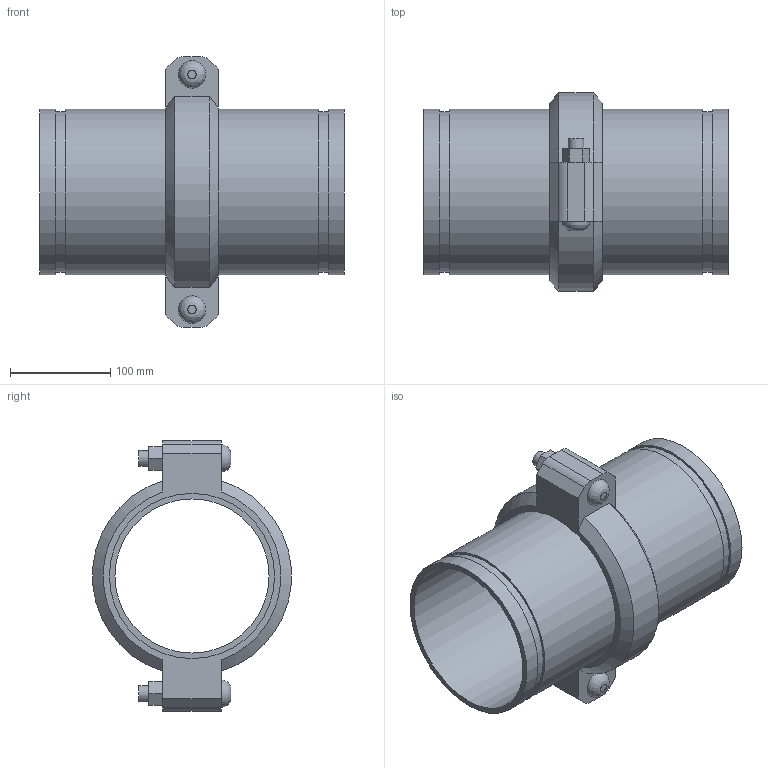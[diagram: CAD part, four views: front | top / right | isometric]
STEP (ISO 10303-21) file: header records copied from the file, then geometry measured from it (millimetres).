
FILE_DESCRIPTION(/* description */ ('VIC EXPANSION JOINT 1 COUPLING COMPRESSED STYLE 155 (OGS)','CAx-IF Rec.Pracs.---Representation and Presentation of Product Manufacturing Information (PMI)---4.0---2014-10-13'),/* implementation_level */ '2;1');
FILE_NAME(/* name */ 'C:\Users\kkamble\AppData\Roaming\Autodesk\ApplicationPlugins\Victaulic.Temp\A74\Victaulic_IPS_Expansion Joint_Compressed_1 Coupling_Style 155 (OGS)_06.0 (165.1) (150).stp',/* time_stamp */ '2021-06-27T00:14:49+02:00',/* author */ ('kkamble'),/* organization */ ('Victaulic'),/* preprocessor_version */ 'ST-DEVELOPER v17.2',/* originating_system */ 'Autodesk Inventor 2019',/* authorisation */ '');
FILE_SCHEMA (('AP242_MANAGED_MODEL_BASED_3D_ENGINEERING_MIM_LF { 1 0 10303 442 1 1 4 }'));
Length unit declared in the file: inch
Products named in the file (3): 155-06.0 (165.1); Nipple-06.0 (165.1); 075-06.0 (165.1)
Assembly tree (3 placements, depth 2):
  155-06.0 (165.1)
    Nipple-06.0 (165.1)  x2
    075-06.0 (165.1)
Bounding box: 304.04 x 198.42 x 270.76 mm (x, y, z)
Volume: 1505595.8 mm3; surface area: 432243.5 mm2
Topology: 3 solids, 5 shells, 81 faces, 193 edges, 138 vertices
Faces by surface type: plane 48, cylinder 27, cone 4, bspline 2
Full cylindrical faces by diameter (mm): 15.875 x4, 17.424 x2, 153.975 x2, 158.75 x1, 160.782 x4, 165.1 x8
Entity records: 2310 total; most frequent: CARTESIAN_POINT 420, DIRECTION 369, ORIENTED_EDGE 326, EDGE_CURVE 163, AXIS2_PLACEMENT_3D 141, VERTEX_POINT 114, EDGE_LOOP 89, LINE 87
